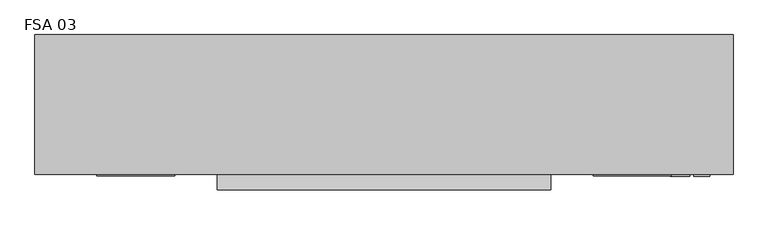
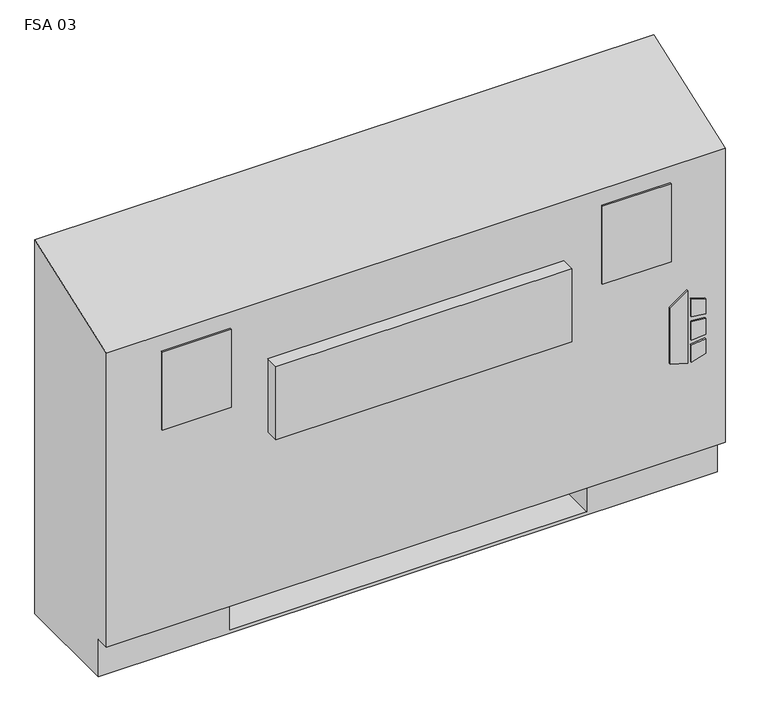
"""IFC4 building model written with IfcOpenShell, lengths in millimetres: proxy geometry, Vertical_Fan_Coil_Unit_-_FSA_-_IEC_-_2-Pipe_FS-FR_LH_2022 : FSA 03."""

from ifc_helpers import new_model, si_unit, point, frame, frame_2d, origin, place, context, project, spatial, polyline, circle_curve, trimmed, segment, composite_curve, outline, extrude, source, transform, mapped, element, save
from ifc_brep_helpers import plane_surface, revolved_surface, advanced_brep


def fsa_03_38f2a992(model_context):
    return source(origin(), model_context, "Body", "SolidModel", [
        extrude(outline(polyline([(263.9480703, 620.7868862), (254.0, 652.9602728), (396.1709244, 652.9602728), (373.1489183, 620.7868862), (263.9480703, 620.7868862)])), frame((0.0, 12.7, 0.0), z_axis=(0.0, 1.0, 0.0), x_axis=(0.0, 0.0, 1.0)), (0.0, 0.0, 1.0), 3.175),
        extrude(outline(polyline([(342.9473557, 659.7186058), (339.7449632, 685.8), (368.9738042, 685.8), (377.0382193, 659.7186058), (342.9473557, 659.7186058)])), frame((0.0, 12.7, 0.0), z_axis=(0.0, 1.0, 0.0), x_axis=(0.0, 0.0, 1.0)), (0.0, 0.0, 1.0), 3.175),
        extrude(outline(polyline([(291.0838288, 685.8), (287.4183279, 659.7186058), (254.0, 659.7186058), (262.6342372, 685.8), (291.0838288, 685.8)])), frame((0.0, 12.7, 0.0), z_axis=(0.0, 1.0, 0.0), x_axis=(0.0, 0.0, 1.0)), (0.0, 0.0, 1.0), 3.175),
        extrude(outline(polyline([(330.3989903, 685.8), (332.6808166, 659.7186058), (296.7432681, 659.7186058), (299.4845331, 685.8), (330.3989903, 685.8)])), frame((0.0, 12.7, 0.0), z_axis=(0.0, 1.0, 0.0), x_axis=(0.0, 0.0, 1.0)), (0.0, 0.0, 1.0), 3.175),
        extrude(outline(polyline([(603.25, 223.266), (603.25, 81.534), (482.6, 81.534), (482.6, 223.266), (603.25, 223.266)])), frame((0.0, 0.0, 327.025), z_axis=(0.0, 0.0, 1.0), x_axis=(1.0, 0.0, 0.0)), (0.0, 0.0, 1.0), 260.35),
        extrude(outline(polyline([(-190.5, 12.7), (-317.5, 12.7), (-317.5, 15.875), (-190.5, 15.875), (-190.5, 12.7)])), frame((0.0, 0.0, 463.55), z_axis=(0.0, 0.0, 1.0), x_axis=(1.0, 0.0, 0.0)), (0.0, 0.0, 1.0), 152.4),
        extrude(outline(polyline([(622.3, 12.7), (495.3, 12.7), (495.3, 15.875), (622.3, 15.875), (622.3, 12.7)])), frame((0.0, 0.0, 463.55), z_axis=(0.0, 0.0, 1.0), x_axis=(1.0, 0.0, 0.0)), (0.0, 0.0, 1.0), 152.4),
        extrude(outline(composite_curve([segment(trimmed(circle_curve(frame_2d((-241.3, 130.175)), 9.525), [point((-250.825, 130.175))], [point((-231.775, 130.175))], False, "CARTESIAN"), True, "CONTINUOUS"), segment(trimmed(circle_curve(frame_2d((-241.3, 130.175)), 9.525), [point((-231.775, 130.175))], [point((-250.825, 130.175))], False, "CARTESIAN"), True, "CONTINUOUS")], self_intersect=False)), frame((0.0, 0.0, 101.6), z_axis=(0.0, 0.0, 1.0), x_axis=(1.0, 0.0, 0.0)), (0.0, 0.0, 1.0), 25.4),
        extrude(outline(polyline([(-342.9, 63.5), (-342.9, 196.85), (-177.8, 196.85), (-177.8, 63.5), (-342.9, 63.5)])), frame((0.0, 0.0, 127.0), z_axis=(0.0, 0.0, 1.0), x_axis=(1.0, 0.0, 0.0)), (0.0, 0.0, 1.0), 50.8),
        extrude(outline(polyline([(425.45, -9.525), (-120.65, -9.525), (-120.65, 15.875), (425.45, 15.875), (425.45, -9.525)])), frame((0.0, 0.0, 389.3009245), z_axis=(0.0, 0.0, 1.0), x_axis=(1.0, 0.0, 0.0)), (0.0, 0.0, 1.0), 142.875),
        extrude(outline(composite_curve([segment(trimmed(circle_curve(frame_2d((109.347, 456.819)), 7.9375), [point((109.347, 464.7565))], [point((109.347, 448.8815))], False, "CARTESIAN"), True, "CONTINUOUS"), segment(trimmed(circle_curve(frame_2d((109.347, 456.819)), 7.9375), [point((109.347, 448.8815))], [point((109.347, 464.7565))], False, "CARTESIAN"), True, "CONTINUOUS")], self_intersect=False)), frame((-228.6, 0.0, 0.0), z_axis=(1.0, 0.0, 0.0), x_axis=(0.0, 1.0, 0.0)), (0.0, 0.0, 1.0), 50.8),
        extrude(outline(composite_curve([segment(trimmed(circle_curve(frame_2d((157.4546, 429.4632)), 7.9375), [point((157.4546, 437.4007))], [point((157.4546, 421.5257))], False, "CARTESIAN"), True, "CONTINUOUS"), segment(trimmed(circle_curve(frame_2d((157.4546, 429.4632)), 7.9375), [point((157.4546, 421.5257))], [point((157.4546, 437.4007))], False, "CARTESIAN"), True, "CONTINUOUS")], self_intersect=False)), frame((-228.6, 0.0, 0.0), z_axis=(1.0, 0.0, 0.0), x_axis=(0.0, 1.0, 0.0)), (0.0, 0.0, 1.0), 50.8),
        advanced_brep(
        [(-419.1, 244.475, 0.0), (723.9, 244.475, 0.0), (723.9, 41.275, 0.0), (-419.1, 41.275, 0.0), (-419.1, 244.475, 730.25), (723.9, 244.475, 730.25), (482.6, 244.475, 73.025), (711.2, 244.475, 73.025), (711.2, 244.475, 654.05), (482.6, 244.475, 654.05), (482.6, 244.475, 414.8650565), (511.175, 244.475, 414.8650565), (511.175, 244.475, 385.2349435), (482.6, 244.475, 385.2349435), (482.6, 244.475, 287.3375), (511.175, 244.475, 287.3375), (511.175, 244.475, 258.7625), (482.6, 244.475, 258.7625), (482.6, 244.475, 141.2875), (511.175, 244.475, 141.2875), (511.175, 244.475, 112.7125), (482.6, 244.475, 112.7125), (-177.8, 244.475, 654.05), (-406.4, 244.475, 654.05), (-406.4, 244.475, 73.025), (-177.8, 244.475, 73.025), (-177.8, 244.475, 112.7125), (-206.375, 244.475, 112.7125), (-206.375, 244.475, 141.2875), (-177.8, 244.475, 141.2875), (-177.8, 244.475, 258.7625), (-206.375, 244.475, 258.7625), (-206.375, 244.475, 287.3375), (-177.8, 244.475, 287.3375), (-177.8, 244.475, 385.2349435), (-206.375, 244.475, 385.2349435), (-206.375, 244.475, 414.8650565), (-177.8, 244.475, 414.8650565), (500.8626, 244.475, 127.0), (489.7374, 244.475, 127.0), (500.8626, 244.475, 400.05), (489.7374, 244.475, 400.05), (500.8626, 244.475, 273.05), (489.7374, 244.475, 273.05), (-184.9374, 244.475, 127.0), (-196.0626, 244.475, 127.0), (-184.9374, 244.475, 273.05), (-196.0626, 244.475, 273.05), (-184.9374, 244.475, 400.05), (-196.0626, 244.475, 400.05), (-419.1, 41.275, 73.025), (-419.1, 15.875, 73.025), (-419.1, 15.875, 647.7), (723.9, 15.875, 73.025), (723.9, 15.875, 647.7), (723.9, 41.275, 73.025), (-177.8, 41.275, 73.025), (-177.8, 225.425, 73.025), (482.6, 225.425, 73.025), (482.6, 41.275, 73.025), (482.6, 41.275, 6.35), (-177.8, 41.275, 6.35), (482.6, 41.275, 654.05), (711.2, 41.275, 654.05), (711.2, 41.275, 73.025), (482.6, 41.275, 73.025), (-177.8, 41.275, 654.05), (-177.8, 41.275, 73.025), (-406.4, 41.275, 73.025), (-406.4, 41.275, 654.05), (482.6, 225.425, 73.025), (482.6, 238.125, 112.7125), (482.6, 238.125, 141.2875), (482.6, 238.125, 258.7625), (482.6, 238.125, 287.3375), (482.6, 238.125, 385.2349435), (482.6, 238.125, 414.8650565), (-177.8, 225.425, 73.025), (-177.8, 238.125, 414.8650565), (-177.8, 238.125, 385.2349435), (-177.8, 238.125, 287.3375), (-177.8, 238.125, 258.7625), (-177.8, 238.125, 141.2875), (-177.8, 238.125, 112.7125), (-177.8, 225.425, 6.35), (482.6, 225.425, 6.35), (511.175, 238.125, 112.7125), (511.175, 238.125, 141.2875), (489.7374, 238.125, 127.0), (500.8626, 238.125, 127.0), (511.175, 238.125, 258.7625), (511.175, 238.125, 287.3375), (489.7374, 238.125, 273.05), (500.8626, 238.125, 273.05), (511.175, 238.125, 385.2349435), (511.175, 238.125, 414.8650565), (489.7374, 238.125, 400.05), (500.8626, 238.125, 400.05), (-206.375, 238.125, 141.2875), (-206.375, 238.125, 112.7125), (-196.0626, 238.125, 127.0), (-184.9374, 238.125, 127.0), (-206.375, 238.125, 287.3375), (-206.375, 238.125, 258.7625), (-196.0626, 238.125, 273.05), (-184.9374, 238.125, 273.05), (-206.375, 238.125, 414.8650565), (-206.375, 238.125, 385.2349435), (-196.0626, 238.125, 400.05), (-184.9374, 238.125, 400.05)],
        [
            (0, 1),
            (1, 2),
            (2, 3),
            (3, 0),
            (0, 4),
            (4, 5),
            (5, 1),
            (6, 7),
            (7, 8),
            (8, 9),
            (9, 10),
            (10, 11),
            (11, 12),
            (12, 13),
            (13, 14),
            (14, 15),
            (15, 16),
            (16, 17),
            (17, 18),
            (18, 19),
            (19, 20),
            (20, 21),
            (21, 6),
            (22, 23),
            (23, 24),
            (24, 25),
            (25, 26),
            (26, 27),
            (27, 28),
            (28, 29),
            (29, 30),
            (30, 31),
            (31, 32),
            (32, 33),
            (33, 34),
            (34, 35),
            (35, 36),
            (36, 37),
            (37, 22),
            (38, 39, circle_curve(frame((495.3, 244.475, 127.0), z_axis=(0.0, -1.0, 0.0), x_axis=(-1.0, 0.0, 0.0)), 5.5626)),
            (39, 38, circle_curve(frame((495.3, 244.475, 127.0), z_axis=(0.0, -1.0, 0.0), x_axis=(-1.0, 0.0, 0.0)), 5.5626)),
            (40, 41, circle_curve(frame((495.3, 244.475, 400.05), z_axis=(0.0, -1.0, 0.0), x_axis=(-1.0, 0.0, 0.0)), 5.5626)),
            (41, 40, circle_curve(frame((495.3, 244.475, 400.05), z_axis=(0.0, -1.0, 0.0), x_axis=(-1.0, 0.0, 0.0)), 5.5626)),
            (42, 43, circle_curve(frame((495.3, 244.475, 273.05), z_axis=(0.0, -1.0, 0.0), x_axis=(-1.0, 0.0, 0.0)), 5.5626)),
            (43, 42, circle_curve(frame((495.3, 244.475, 273.05), z_axis=(0.0, -1.0, 0.0), x_axis=(-1.0, 0.0, 0.0)), 5.5626)),
            (44, 45, circle_curve(frame((-190.5, 244.475, 127.0), z_axis=(0.0, -1.0, 0.0), x_axis=(-1.0, 0.0, 0.0)), 5.5626)),
            (45, 44, circle_curve(frame((-190.5, 244.475, 127.0), z_axis=(0.0, -1.0, 0.0), x_axis=(-1.0, 0.0, 0.0)), 5.5626)),
            (46, 47, circle_curve(frame((-190.5, 244.475, 273.05), z_axis=(0.0, -1.0, 0.0), x_axis=(-1.0, 0.0, 0.0)), 5.5626)),
            (47, 46, circle_curve(frame((-190.5, 244.475, 273.05), z_axis=(0.0, -1.0, 0.0), x_axis=(-1.0, 0.0, 0.0)), 5.5626)),
            (48, 49, circle_curve(frame((-190.5, 244.475, 400.05), z_axis=(0.0, -1.0, 0.0), x_axis=(-1.0, 0.0, 0.0)), 5.5626)),
            (49, 48, circle_curve(frame((-190.5, 244.475, 400.05), z_axis=(0.0, -1.0, 0.0), x_axis=(-1.0, 0.0, 0.0)), 5.5626)),
            (3, 50),
            (50, 51),
            (51, 52),
            (52, 4),
            (51, 53),
            (53, 54),
            (54, 52),
            (5, 54),
            (53, 55),
            (55, 2),
            (50, 56),
            (56, 57),
            (57, 58),
            (58, 59),
            (59, 55),
            (59, 60),
            (60, 61),
            (61, 56),
            (62, 63),
            (63, 64),
            (64, 65),
            (65, 62),
            (66, 67),
            (67, 68),
            (68, 69),
            (69, 66),
            (65, 70),
            (70, 6),
            (21, 71),
            (71, 72),
            (72, 18),
            (17, 73),
            (73, 74),
            (74, 14),
            (13, 75),
            (75, 76),
            (76, 10),
            (9, 62),
            (64, 7),
            (63, 8),
            (69, 23),
            (22, 66),
            (68, 24),
            (67, 77),
            (77, 25),
            (37, 78),
            (78, 79),
            (79, 34),
            (33, 80),
            (80, 81),
            (81, 30),
            (29, 82),
            (82, 83),
            (83, 26),
            (57, 84),
            (84, 85),
            (85, 58),
            (85, 60),
            (84, 61),
            (71, 86),
            (86, 87),
            (87, 72),
            (88, 89, circle_curve(frame((495.3, 238.125, 127.0), z_axis=(0.0, 1.0, 0.0), x_axis=(-1.0, 0.0, 0.0)), 5.5626)),
            (89, 88, circle_curve(frame((495.3, 238.125, 127.0), z_axis=(0.0, 1.0, 0.0), x_axis=(-1.0, 0.0, 0.0)), 5.5626)),
            (73, 90),
            (90, 91),
            (91, 74),
            (92, 93, circle_curve(frame((495.3, 238.125, 273.05), z_axis=(0.0, 1.0, 0.0), x_axis=(-1.0, 0.0, 0.0)), 5.5626)),
            (93, 92, circle_curve(frame((495.3, 238.125, 273.05), z_axis=(0.0, 1.0, 0.0), x_axis=(-1.0, 0.0, 0.0)), 5.5626)),
            (75, 94),
            (94, 95),
            (95, 76),
            (96, 97, circle_curve(frame((495.3, 238.125, 400.05), z_axis=(0.0, 1.0, 0.0), x_axis=(-1.0, 0.0, 0.0)), 5.5626)),
            (97, 96, circle_curve(frame((495.3, 238.125, 400.05), z_axis=(0.0, 1.0, 0.0), x_axis=(-1.0, 0.0, 0.0)), 5.5626)),
            (98, 99),
            (99, 83),
            (82, 98),
            (100, 101, circle_curve(frame((-190.5, 238.125, 127.0), z_axis=(0.0, 1.0, 0.0), x_axis=(-1.0, 0.0, 0.0)), 5.5626)),
            (101, 100, circle_curve(frame((-190.5, 238.125, 127.0), z_axis=(0.0, 1.0, 0.0), x_axis=(-1.0, 0.0, 0.0)), 5.5626)),
            (102, 103),
            (103, 81),
            (80, 102),
            (104, 105, circle_curve(frame((-190.5, 238.125, 273.05), z_axis=(0.0, 1.0, 0.0), x_axis=(-1.0, 0.0, 0.0)), 5.5626)),
            (105, 104, circle_curve(frame((-190.5, 238.125, 273.05), z_axis=(0.0, 1.0, 0.0), x_axis=(-1.0, 0.0, 0.0)), 5.5626)),
            (106, 107),
            (107, 79),
            (78, 106),
            (108, 109, circle_curve(frame((-190.5, 238.125, 400.05), z_axis=(0.0, 1.0, 0.0), x_axis=(-1.0, 0.0, 0.0)), 5.5626)),
            (109, 108, circle_curve(frame((-190.5, 238.125, 400.05), z_axis=(0.0, 1.0, 0.0), x_axis=(-1.0, 0.0, 0.0)), 5.5626)),
            (87, 19),
            (86, 20),
            (91, 15),
            (90, 16),
            (95, 11),
            (94, 12),
            (28, 98),
            (99, 27),
            (32, 102),
            (103, 31),
            (36, 106),
            (107, 35),
            (88, 39),
            (38, 89),
            (96, 41),
            (40, 97),
            (92, 43),
            (42, 93),
            (100, 45),
            (44, 101),
            (104, 47),
            (46, 105),
            (108, 49),
            (48, 109),
        ],
        [
            plane_surface(frame((-419.1, 244.475, 0.0), z_axis=(0.0, 0.0, -1.0), x_axis=(1.0, 0.0, 0.0))),
            plane_surface(frame((723.9, 244.475, 730.25), z_axis=(0.0, 1.0, 0.0), x_axis=(0.0, 0.0, -1.0))),
            plane_surface(frame((-419.1, 244.475, 730.25), z_axis=(-1.0, 0.0, 0.0), x_axis=(0.0, 0.0, -1.0))),
            plane_surface(frame((-419.1, 15.875, 730.25), z_axis=(0.0, -1.0, 0.0), x_axis=(0.0, 0.0, -1.0))),
            plane_surface(frame((723.9, 15.875, 730.25), z_axis=(1.0, 0.0, 0.0), x_axis=(0.0, 0.0, -1.0))),
            plane_surface(frame((-419.1, 15.875, 73.025), z_axis=(0.0, 0.0, -1.0), x_axis=(1.0, 0.0, 0.0))),
            plane_surface(frame((-419.1, 41.275, 73.025), z_axis=(0.0, -1.0, 0.0), x_axis=(1.0, 0.0, 0.0))),
            plane_surface(frame((482.6, 41.275, 654.05), z_axis=(0.0, 1.0, 0.0), x_axis=(0.0, 0.0, -1.0))),
            plane_surface(frame((482.6, 41.275, 654.05), z_axis=(1.0, 0.0, 0.0), x_axis=(0.0, 1.0, 0.0))),
            plane_surface(frame((482.6, 41.275, 73.025), z_axis=(0.0, 0.0, 1.0), x_axis=(0.0, 1.0, 0.0))),
            plane_surface(frame((711.2, 41.275, 73.025), z_axis=(-1.0, 0.0, 0.0), x_axis=(0.0, 1.0, 0.0))),
            plane_surface(frame((711.2, 41.275, 654.05), z_axis=(0.0, 0.0, -1.0), x_axis=(0.0, 1.0, 0.0))),
            plane_surface(frame((-177.8, 41.275, 654.05), z_axis=(0.0, 0.0, -1.0), x_axis=(0.0, 1.0, 0.0))),
            plane_surface(frame((-406.4, 41.275, 654.05), z_axis=(1.0, 0.0, 0.0), x_axis=(0.0, 1.0, 0.0))),
            plane_surface(frame((-406.4, 41.275, 73.025), z_axis=(0.0, 0.0, 1.0), x_axis=(0.0, 1.0, 0.0))),
            plane_surface(frame((-177.8, 41.275, 73.025), z_axis=(-1.0, 0.0, 0.0), x_axis=(0.0, 1.0, 0.0))),
            plane_surface(frame((482.6, 225.425, 73.025), z_axis=(0.0, -1.0, 0.0), x_axis=(0.0, 0.0, -1.0))),
            plane_surface(frame((482.6, 225.425, 73.025), z_axis=(-1.0, 0.0, 0.0), x_axis=(0.0, -1.0, 0.0))),
            plane_surface(frame((482.6, 225.425, 6.35), z_axis=(0.0, 0.0, 1.0), x_axis=(0.0, -1.0, 0.0))),
            plane_surface(frame((-177.8, 225.425, 6.35), z_axis=(1.0, 0.0, 0.0), x_axis=(0.0, -1.0, 0.0))),
            plane_surface(frame((511.175, 238.125, 141.2875), z_axis=(0.0, -1.0, 0.0), x_axis=(-1.0, 0.0, 0.0))),
            plane_surface(frame((482.6, 244.475, 141.2875), z_axis=(0.0, 0.0, 1.0), x_axis=(0.0, -1.0, 0.0))),
            plane_surface(frame((511.175, 244.475, 141.2875), z_axis=(1.0, 0.0, 0.0), x_axis=(0.0, -1.0, 0.0))),
            plane_surface(frame((511.175, 244.475, 112.7125), z_axis=(0.0, 0.0, -1.0), x_axis=(0.0, -1.0, 0.0))),
            plane_surface(frame((482.6, 244.475, 287.3375), z_axis=(0.0, 0.0, 1.0), x_axis=(0.0, -1.0, 0.0))),
            plane_surface(frame((511.175, 244.475, 287.3375), z_axis=(1.0, 0.0, 0.0), x_axis=(0.0, -1.0, 0.0))),
            plane_surface(frame((511.175, 244.475, 258.7625), z_axis=(0.0, 0.0, -1.0), x_axis=(0.0, -1.0, 0.0))),
            plane_surface(frame((482.6, 244.475, 414.8650565), z_axis=(0.0, 0.0, 1.0), x_axis=(0.0, -1.0, 0.0))),
            plane_surface(frame((511.175, 244.475, 414.8650565), z_axis=(1.0, 0.0, 0.0), x_axis=(0.0, -1.0, 0.0))),
            plane_surface(frame((511.175, 244.475, 385.2349435), z_axis=(0.0, 0.0, -1.0), x_axis=(0.0, -1.0, 0.0))),
            plane_surface(frame((-206.375, 244.475, 141.2875), z_axis=(0.0, 0.0, 1.0), x_axis=(0.0, -1.0, 0.0))),
            plane_surface(frame((-177.8, 244.475, 112.7125), z_axis=(0.0, 0.0, -1.0), x_axis=(0.0, -1.0, 0.0))),
            plane_surface(frame((-206.375, 244.475, 112.7125), z_axis=(-1.0, 0.0, 0.0), x_axis=(0.0, -1.0, 0.0))),
            plane_surface(frame((-206.375, 244.475, 287.3375), z_axis=(0.0, 0.0, 1.0), x_axis=(0.0, -1.0, 0.0))),
            plane_surface(frame((-177.8, 244.475, 258.7625), z_axis=(0.0, 0.0, -1.0), x_axis=(0.0, -1.0, 0.0))),
            plane_surface(frame((-206.375, 244.475, 258.7625), z_axis=(-1.0, 0.0, 0.0), x_axis=(0.0, -1.0, 0.0))),
            plane_surface(frame((-206.375, 244.475, 414.8650565), z_axis=(0.0, 0.0, 1.0), x_axis=(0.0, -1.0, 0.0))),
            plane_surface(frame((-177.8, 244.475, 385.2349435), z_axis=(0.0, 0.0, -1.0), x_axis=(0.0, -1.0, 0.0))),
            plane_surface(frame((-206.375, 244.475, 385.2349435), z_axis=(-1.0, 0.0, 0.0), x_axis=(0.0, -1.0, 0.0))),
            revolved_surface(polyline([(489.73740000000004, 238.125, 127.0), (489.73740000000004, 244.475, 127.0)]), (495.3, 244.475, 127.0), (0.0, -1.0, 0.0)),
            revolved_surface(polyline([(489.73740000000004, 238.125, 400.05), (489.73740000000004, 244.475, 400.05)]), (495.3, 244.475, 400.05), (0.0, -1.0, 0.0)),
            revolved_surface(polyline([(489.73740000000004, 238.125, 273.05), (489.73740000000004, 244.475, 273.05)]), (495.3, 244.475, 273.05), (0.0, -1.0, 0.0)),
            revolved_surface(polyline([(-196.0626, 238.125, 127.0), (-196.0626, 244.475, 127.0)]), (-190.5, 244.475, 127.0), (0.0, -1.0, 0.0)),
            revolved_surface(polyline([(-196.0626, 238.125, 273.05), (-196.0626, 244.475, 273.05)]), (-190.5, 244.475, 273.05), (0.0, -1.0, 0.0)),
            revolved_surface(polyline([(-196.0626, 238.125, 400.05), (-196.0626, 244.475, 400.05)]), (-190.5, 244.475, 400.05), (0.0, -1.0, 0.0)),
            plane_surface(frame((-419.1, 244.475, 730.25), z_axis=(0.0, -0.33964446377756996, 0.9405538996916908), x_axis=(1.0, 0.0, 0.0))),
        ],
        [
            (0, [[1, 2, 3, 4]]),
            (1, [[-1, 5, 6, 7], [8, 9, 10, 11, 12, 13, 14, 15, 16, 17, 18, 19, 20, 21, 22, 23], [24, 25, 26, 27, 28, 29, 30, 31, 32, 33, 34, 35, 36, 37, 38, 39], [40, 41], [42, 43], [44, 45], [46, 47], [48, 49], [50, 51]]),
            (2, [[-5, -4, 52, 53, 54, 55]]),
            (3, [[56, 57, 58, -54]]),
            (4, [[-7, 59, -57, 60, 61, -2]]),
            (5, [[-53, 62, 63, 64, 65, 66, -60, -56]]),
            (6, [[-3, -61, -66, 67, 68, 69, -62, -52]]),
            (7, [[70, 71, 72, 73]]),
            (7, [[74, 75, 76, 77]]),
            (8, [[-73, 78, 79, -23, 80, 81, 82, -19, 83, 84, 85, -15, 86, 87, 88, -11, 89]]),
            (9, [[-72, 90, -8, -79, -78]]),
            (10, [[-71, 91, -9, -90]]),
            (11, [[-70, -89, -10, -91]]),
            (12, [[-77, 92, -24, 93]]),
            (13, [[-76, 94, -25, -92]]),
            (14, [[-75, 95, 96, -26, -94]]),
            (15, [[-74, -93, -39, 97, 98, 99, -35, 100, 101, 102, -31, 103, 104, 105, -27, -96, -95]]),
            (16, [[-64, 106, 107, 108]]),
            (17, [[-108, 109, -67, -65]]),
            (18, [[-107, 110, -68, -109]]),
            (19, [[-106, -63, -69, -110]]),
            (20, [[111, 112, 113, -81], [114, 115]]),
            (20, [[116, 117, 118, -84], [119, 120]]),
            (20, [[121, 122, 123, -87], [124, 125]]),
            (20, [[126, 127, -104, 128], [129, 130]]),
            (20, [[131, 132, -101, 133], [134, 135]]),
            (20, [[136, 137, -98, 138], [139, 140]]),
            (21, [[-113, 141, -20, -82]]),
            (22, [[-112, 142, -21, -141]]),
            (23, [[-111, -80, -22, -142]]),
            (24, [[-118, 143, -16, -85]]),
            (25, [[-117, 144, -17, -143]]),
            (26, [[-116, -83, -18, -144]]),
            (27, [[-123, 145, -12, -88]]),
            (28, [[-122, 146, -13, -145]]),
            (29, [[-121, -86, -14, -146]]),
            (30, [[-128, -103, -30, 147]]),
            (31, [[-127, 148, -28, -105]]),
            (32, [[-126, -147, -29, -148]]),
            (33, [[-133, -100, -34, 149]]),
            (34, [[-132, 150, -32, -102]]),
            (35, [[-131, -149, -33, -150]]),
            (36, [[-138, -97, -38, 151]]),
            (37, [[-137, 152, -36, -99]]),
            (38, [[-136, -151, -37, -152]]),
            (39, [[153, -40, 154, -114]]),
            (39, [[-153, -115, -154, -41]]),
            (40, [[155, -42, 156, -124]]),
            (40, [[-155, -125, -156, -43]]),
            (41, [[157, -44, 158, -119]]),
            (41, [[-157, -120, -158, -45]]),
            (42, [[159, -46, 160, -129]]),
            (42, [[-159, -130, -160, -47]]),
            (43, [[161, -48, 162, -134]]),
            (43, [[-161, -135, -162, -49]]),
            (44, [[163, -50, 164, -139]]),
            (44, [[-163, -140, -164, -51]]),
            (45, [[-6, -55, -58, -59]]),
        ],
    ),
    ])


if __name__ == "__main__":
    model = new_model("IFC4")
    model_context = context("Model", 3, world=origin())
    ifc_project = project(units=[si_unit("LENGTHUNIT", "METRE", prefix="MILLI")], contexts=[model_context])
    site = spatial("IfcSite", under=ifc_project)
    building = spatial("IfcBuilding", under=site)
    placement = place(None, origin())
    fsa_03_shape = fsa_03_38f2a992(model_context)
    element("IfcBuildingElementProxy", 1, Name="Vertical_Fan_Coil_Unit_-_FSA_-_IEC_-_2-Pipe_FS-FR_LH_2022 : FSA 03", ObjectType="Vertical_Fan_Coil_Unit_-_FSA_-_IEC_-_2-Pipe_FS-FR_LH_2022 : FSA 03", at=placement, inside=building, context=model_context, shape_type="MappedRepresentation", body=[
        mapped(fsa_03_shape, transform((0.0, 0.0, 0.0), x_axis=(1.0, 0.0, 0.0), y_axis=(0.0, 1.0, 0.0), z_axis=(0.0, 0.0, 1.0))),
    ])
    save(model, "model.ifc")
